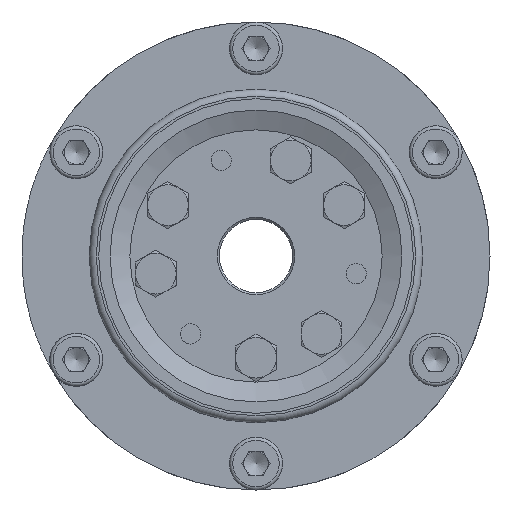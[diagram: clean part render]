
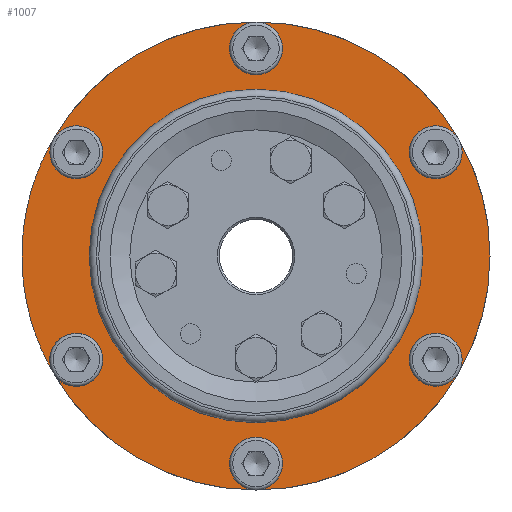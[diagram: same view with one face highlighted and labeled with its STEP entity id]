
A CAD part, left-side view. The second image highlights one B-rep face of the part: STEP entity #1007.
In plain terms, the highlighted planar face has unit normal (-1, 0, 0).
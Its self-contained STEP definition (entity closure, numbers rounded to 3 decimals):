
#1007 = ADVANCED_FACE( '', ( #2436, #2437 ), #2438, .F. );
#2436 = FACE_OUTER_BOUND( '', #4429, .T. );
#2437 = FACE_BOUND( '', #4430, .T. );
#2438 = PLANE( '', #4431 );
#4429 = EDGE_LOOP( '', ( #7333, #7334, #7335, #7336, #7337, #7338, #7339, #7340, #7341, #7342, #7343, #7344 ) );
#4430 = EDGE_LOOP( '', ( #7345 ) );
#4431 = AXIS2_PLACEMENT_3D( '', #7346, #7347, #7348 );
#7333 = ORIENTED_EDGE( '', *, *, #10899, .T. );
#7334 = ORIENTED_EDGE( '', *, *, #10900, .F. );
#7335 = ORIENTED_EDGE( '', *, *, #10901, .T. );
#7336 = ORIENTED_EDGE( '', *, *, #10902, .F. );
#7337 = ORIENTED_EDGE( '', *, *, #10903, .T. );
#7338 = ORIENTED_EDGE( '', *, *, #10665, .F. );
#7339 = ORIENTED_EDGE( '', *, *, #10904, .T. );
#7340 = ORIENTED_EDGE( '', *, *, #10905, .F. );
#7341 = ORIENTED_EDGE( '', *, *, #10906, .T. );
#7342 = ORIENTED_EDGE( '', *, *, #10907, .F. );
#7343 = ORIENTED_EDGE( '', *, *, #10908, .T. );
#7344 = ORIENTED_EDGE( '', *, *, #10909, .F. );
#7345 = ORIENTED_EDGE( '', *, *, #10910, .F. );
#7346 = CARTESIAN_POINT( '', ( -11.5, 0., 57.5 ) );
#7347 = DIRECTION( '', ( 1., 0., 0. ) );
#7348 = DIRECTION( '', ( 0., 1., 0. ) );
#10665 = EDGE_CURVE( '', #12776, #12776, #12777, .T. );
#10899 = EDGE_CURVE( '', #13125, #13126, #13127, .T. );
#10900 = EDGE_CURVE( '', #13126, #13126, #13128, .T. );
#10901 = EDGE_CURVE( '', #13126, #13129, #13130, .T. );
#10902 = EDGE_CURVE( '', #13129, #13129, #13131, .T. );
#10903 = EDGE_CURVE( '', #13129, #12776, #13132, .T. );
#10904 = EDGE_CURVE( '', #12776, #13133, #13134, .T. );
#10905 = EDGE_CURVE( '', #13133, #13133, #13135, .T. );
#10906 = EDGE_CURVE( '', #13133, #13136, #13137, .T. );
#10907 = EDGE_CURVE( '', #13136, #13136, #13138, .T. );
#10908 = EDGE_CURVE( '', #13136, #13125, #13139, .T. );
#10909 = EDGE_CURVE( '', #13125, #13125, #13140, .T. );
#10910 = EDGE_CURVE( '', #13141, #13141, #13142, .T. );
#12776 = VERTEX_POINT( '', #16517 );
#12777 = CIRCLE( '', #16518, 6.5 );
#13125 = VERTEX_POINT( '', #17369 );
#13126 = VERTEX_POINT( '', #17370 );
#13127 = CIRCLE( '', #17371, 57.5 );
#13128 = CIRCLE( '', #17372, 6.5 );
#13129 = VERTEX_POINT( '', #17373 );
#13130 = CIRCLE( '', #17374, 57.5 );
#13131 = CIRCLE( '', #17375, 6.5 );
#13132 = CIRCLE( '', #17376, 57.5 );
#13133 = VERTEX_POINT( '', #17377 );
#13134 = CIRCLE( '', #17378, 57.5 );
#13135 = CIRCLE( '', #17379, 6.5 );
#13136 = VERTEX_POINT( '', #17380 );
#13137 = CIRCLE( '', #17381, 57.5 );
#13138 = CIRCLE( '', #17382, 6.5 );
#13139 = CIRCLE( '', #17383, 57.5 );
#13140 = CIRCLE( '', #17384, 6.5 );
#13141 = VERTEX_POINT( '', #17385 );
#13142 = CIRCLE( '', #17386, 38.65 );
#16517 = CARTESIAN_POINT( '', ( -11.5, -49.796, -28.75 ) );
#16518 = AXIS2_PLACEMENT_3D( '', #20080, #20081, #20082 );
#17369 = CARTESIAN_POINT( '', ( -11.5, 49.796, 28.75 ) );
#17370 = CARTESIAN_POINT( '', ( -11.5, 49.796, -28.75 ) );
#17371 = AXIS2_PLACEMENT_3D( '', #20341, #20342, #20343 );
#17372 = AXIS2_PLACEMENT_3D( '', #20344, #20345, #20346 );
#17373 = CARTESIAN_POINT( '', ( -11.5, 0., -57.5 ) );
#17374 = AXIS2_PLACEMENT_3D( '', #20347, #20348, #20349 );
#17375 = AXIS2_PLACEMENT_3D( '', #20350, #20351, #20352 );
#17376 = AXIS2_PLACEMENT_3D( '', #20353, #20354, #20355 );
#17377 = CARTESIAN_POINT( '', ( -11.5, -49.796, 28.75 ) );
#17378 = AXIS2_PLACEMENT_3D( '', #20356, #20357, #20358 );
#17379 = AXIS2_PLACEMENT_3D( '', #20359, #20360, #20361 );
#17380 = CARTESIAN_POINT( '', ( -11.5, 0., 57.5 ) );
#17381 = AXIS2_PLACEMENT_3D( '', #20362, #20363, #20364 );
#17382 = AXIS2_PLACEMENT_3D( '', #20365, #20366, #20367 );
#17383 = AXIS2_PLACEMENT_3D( '', #20368, #20369, #20370 );
#17384 = AXIS2_PLACEMENT_3D( '', #20371, #20372, #20373 );
#17385 = CARTESIAN_POINT( '', ( -11.5, 0., 38.65 ) );
#17386 = AXIS2_PLACEMENT_3D( '', #20374, #20375, #20376 );
#20080 = CARTESIAN_POINT( '', ( -11.5, -44.167, -25.5 ) );
#20081 = DIRECTION( '', ( -1., 0., 0. ) );
#20082 = DIRECTION( '', ( 0., -0.866, -0.5 ) );
#20341 = CARTESIAN_POINT( '', ( -11.5, 0., 0. ) );
#20342 = DIRECTION( '', ( -1., 0., 0. ) );
#20343 = DIRECTION( '', ( 0., 0., 1. ) );
#20344 = CARTESIAN_POINT( '', ( -11.5, 44.167, -25.5 ) );
#20345 = DIRECTION( '', ( -1., 0., 0. ) );
#20346 = DIRECTION( '', ( 0., 0.866, -0.5 ) );
#20347 = CARTESIAN_POINT( '', ( -11.5, 0., 0. ) );
#20348 = DIRECTION( '', ( -1., 0., 0. ) );
#20349 = DIRECTION( '', ( 0., 0., 1. ) );
#20350 = CARTESIAN_POINT( '', ( -11.5, 0., -51. ) );
#20351 = DIRECTION( '', ( -1., 0., 0. ) );
#20352 = DIRECTION( '', ( 0., 0., -1. ) );
#20353 = CARTESIAN_POINT( '', ( -11.5, 0., 0. ) );
#20354 = DIRECTION( '', ( -1., 0., 0. ) );
#20355 = DIRECTION( '', ( 0., 0., 1. ) );
#20356 = CARTESIAN_POINT( '', ( -11.5, 0., 0. ) );
#20357 = DIRECTION( '', ( -1., 0., 0. ) );
#20358 = DIRECTION( '', ( 0., 0., 1. ) );
#20359 = CARTESIAN_POINT( '', ( -11.5, -44.167, 25.5 ) );
#20360 = DIRECTION( '', ( -1., 0., 0. ) );
#20361 = DIRECTION( '', ( 0., -0.866, 0.5 ) );
#20362 = CARTESIAN_POINT( '', ( -11.5, 0., 0. ) );
#20363 = DIRECTION( '', ( -1., 0., 0. ) );
#20364 = DIRECTION( '', ( 0., 0., 1. ) );
#20365 = CARTESIAN_POINT( '', ( -11.5, 0., 51. ) );
#20366 = DIRECTION( '', ( -1., 0., 0. ) );
#20367 = DIRECTION( '', ( 0., 0., 1. ) );
#20368 = CARTESIAN_POINT( '', ( -11.5, 0., 0. ) );
#20369 = DIRECTION( '', ( -1., 0., 0. ) );
#20370 = DIRECTION( '', ( 0., 0., 1. ) );
#20371 = CARTESIAN_POINT( '', ( -11.5, 44.167, 25.5 ) );
#20372 = DIRECTION( '', ( -1., 0., 0. ) );
#20373 = DIRECTION( '', ( 0., 0.866, 0.5 ) );
#20374 = CARTESIAN_POINT( '', ( -11.5, 0., 0. ) );
#20375 = DIRECTION( '', ( -1., 0., 0. ) );
#20376 = DIRECTION( '', ( 0., 0., 1. ) );
